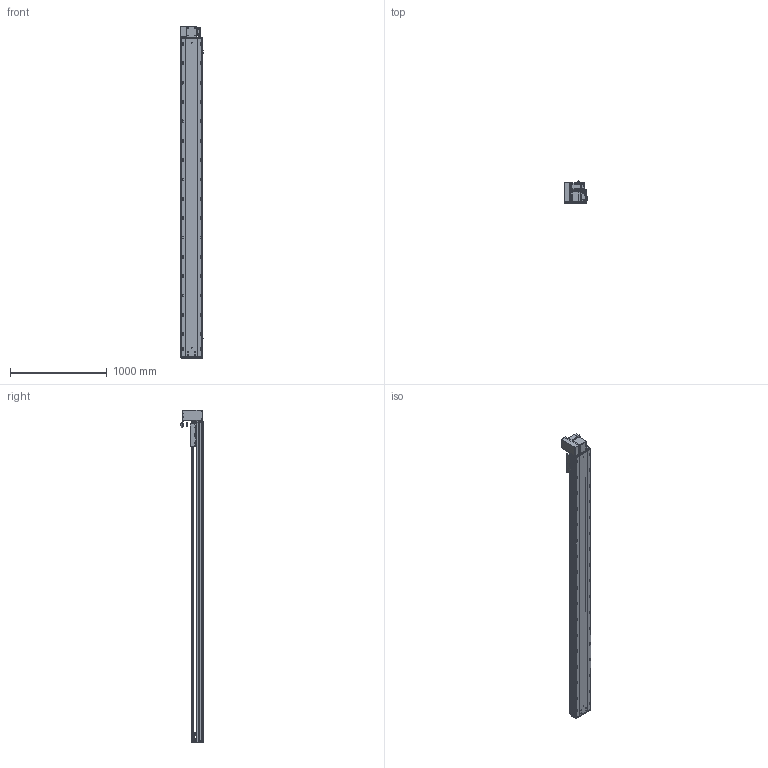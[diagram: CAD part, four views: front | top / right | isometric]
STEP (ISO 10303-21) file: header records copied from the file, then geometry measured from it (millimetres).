
FILE_DESCRIPTION (( 'STEP AP203' ), '1' );
FILE_NAME ('RY220-T-300-UL.SLDASM_2950.step', '2022-07-25T08:36:18', ( '' ), ( '' ), 'SwSTEP 2.0', 'SolidWorks 2016', '' );
FILE_SCHEMA (( 'CONFIG_CONTROL_DESIGN' ));
Length unit declared in the file: millimetre
Products named in the file (14): 怢湛750W_ECMA-CX0807ES; 110A-T-肮祭謫釱傷裔; RY220-T-300-UL.SLDASM_2950; RY220翋肮祭謫釱; RY220-同步轮副支撑座6304×2; RY220-俋离672覜茼んえ; RY220-T-蛌殏萇儂假蚾啣(750W); 滅袉蝶18-15; 覜茼ん672; RY220-T-湍謫欶(鍼踢); RY220-T菁釱-300_2950; RY220-T-300-奻裔啣_2950; RY220翋肮祭謫裔啣; RY220圉猾敕々湍臏賑輸
Assembly tree (18 placements, depth 2):
  RY220-T-300-UL.SLDASM_2950
    RY220-T菁釱-300_2950
    RY220翋肮祭謫釱
    覜茼ん672  x3
    RY220圉猾敕々湍臏賑輸
    RY220-T-300-奻裔啣_2950
    RY220-俋离672覜茼んえ
    滅袉蝶18-15  x3
    RY220翋肮祭謫裔啣  x2
    110A-T-肮祭謫釱傷裔
    怢湛750W_ECMA-CX0807ES
    RY220-T-湍謫欶(鍼踢)
    RY220-T-蛌殏萇儂假蚾啣(750W)
    RY220-同步轮副支撑座6304×2
Bounding box: 239.7 x 231.74 x 3430.5 mm (x, y, z)
Volume: 24880005.2 mm3; surface area: 7693573.9 mm2
Topology: 19 solids, 19 shells, 3020 faces, 8355 edges, 5230 vertices
Faces by surface type: cylinder 1492, plane 1069, cone 377, bspline 56, sphere 16, torus 10
Entity records: 100723 total; most frequent: CARTESIAN_POINT 28401, ORIENTED_EDGE 14938, DIRECTION 14436, EDGE_CURVE 7469, AXIS2_PLACEMENT_3D 5214, VERTEX_POINT 4854, VECTOR 4008, LINE 4008
